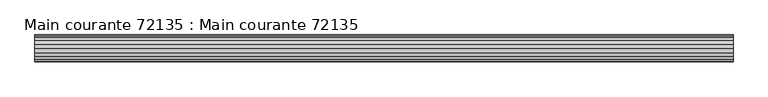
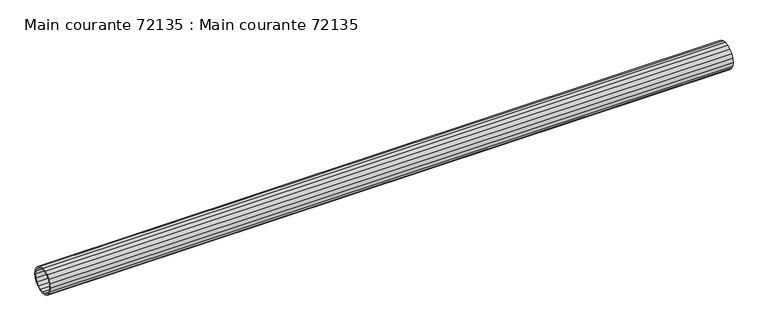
"""IFC4 building model written with IfcOpenShell, lengths in millimetres: beam geometry, Main courante 72135 : Main courante 72135."""

from ifc_helpers import new_model, si_unit, frame, origin, place, context, project, spatial, polyline, outline, extrude, source, transform, mapped, element, save


def main_courante_72135_main_courante_72135_73440e9b(model_context):
    return source(origin(), model_context, "Body", "SweptSolid", [
        extrude(outline(polyline([(-14166.5, 8765.0), (-14165.3180149, 8772.4627604), (-14161.8877604, 8779.1950138), (-14156.5450138, 8784.5377604), (-14149.8127604, 8787.9680149), (-14142.35, 8789.15), (-14134.8872396, 8787.9680149), (-14128.1549862, 8784.5377604), (-14122.8122396, 8779.1950138), (-14119.3819851, 8772.4627604), (-14118.2, 8765.0), (-14119.3819851, 8757.5372396), (-14122.8122396, 8750.8049862), (-14128.1549862, 8745.4622396), (-14134.8872396, 8742.0319851), (-14142.35, 8740.85), (-14149.8127604, 8742.0319851), (-14156.5450138, 8745.4622396), (-14161.8877604, 8750.8049862), (-14165.3180149, 8757.5372396), (-14166.5, 8765.0)]), holes=[polyline([(-14120.7, 8765.0), (-14121.7596264, 8771.6902179), (-14124.8347821, 8777.7255507), (-14129.6244493, 8782.5152179), (-14135.6597821, 8785.5903736), (-14142.35, 8786.65), (-14149.0402179, 8785.5903736), (-14155.0755507, 8782.5152179), (-14159.8652179, 8777.7255507), (-14162.9403736, 8771.6902179), (-14164.0, 8765.0), (-14162.9403736, 8758.3097821), (-14159.8652179, 8752.2744493), (-14155.0755507, 8747.4847821), (-14149.0402179, 8744.4096264), (-14142.35, 8743.35), (-14135.6597821, 8744.4096264), (-14129.6244493, 8747.4847821), (-14124.8347821, 8752.2744493), (-14121.7596264, 8758.3097821), (-14120.7, 8765.0)])]), frame((6313.4999999, 0.0, 0.0), z_axis=(1.0, 0.0, 0.0), x_axis=(0.0, 1.0, 0.0)), (0.0, 0.0, 1.0), 1249.5),
    ])


if __name__ == "__main__":
    model = new_model("IFC4")
    model_context = context("Model", 3, world=origin())
    ifc_project = project(units=[si_unit("LENGTHUNIT", "METRE", prefix="MILLI")], contexts=[model_context])
    site = spatial("IfcSite", under=ifc_project)
    building = spatial("IfcBuilding", under=site)
    placement = place(None, origin())
    main_courante_72135_main_courante_72135_shape = main_courante_72135_main_courante_72135_73440e9b(model_context)
    element("IfcBeam", 1, ObjectType="Main courante 72135 : Main courante 72135", at=placement, inside=building, context=model_context, shape_type="MappedRepresentation", body=[
        mapped(main_courante_72135_main_courante_72135_shape, transform((0.0, 0.0, 0.0), x_axis=(1.0, 0.0, 0.0), y_axis=(0.0, 1.0, 0.0), z_axis=(0.0, 0.0, 1.0))),
    ])
    save(model, "model.ifc")
